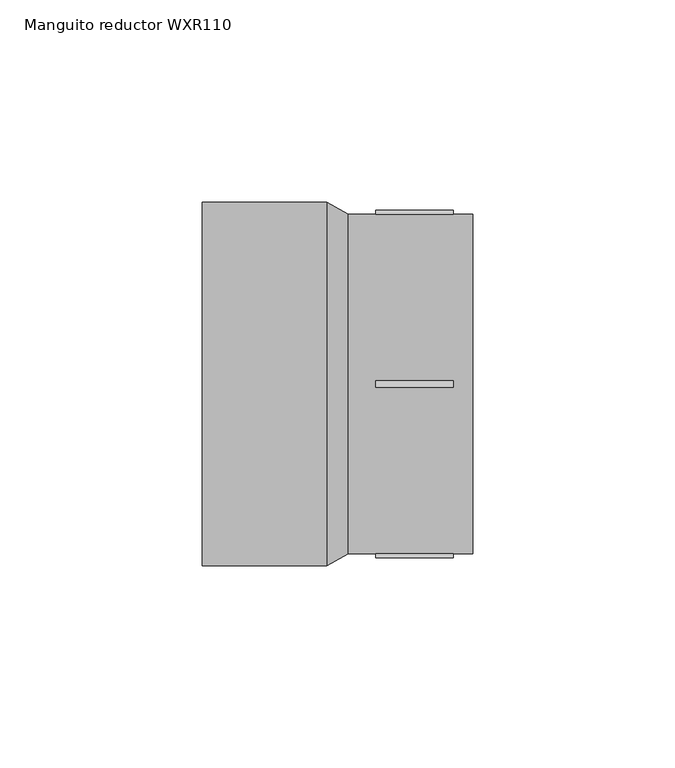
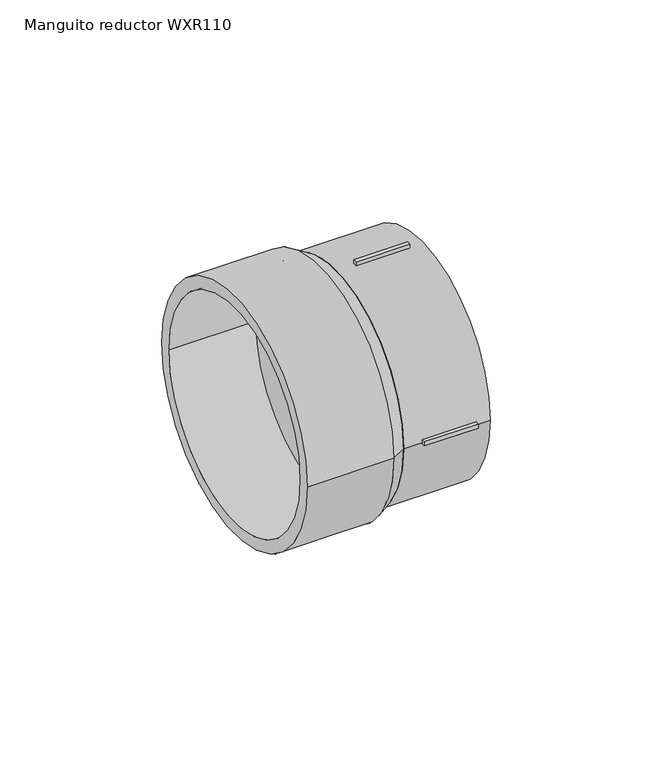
"""IFC4 building model written with IfcOpenShell, lengths in millimetres: pipe fitting geometry, EGB_VASEN_ PPR_Manguito reductor WXR110 : Manguito reductor WXR110."""

from ifc_helpers import new_model, si_unit, point, frame, origin, origin_2d, place, context, project, spatial, polyline, circle_curve, trimmed, segment, composite_curve, outline, extrude, source, transform, mapped, element, save
from ifc_brep_helpers import plane_surface, revolved_surface, advanced_brep


def manguito_reductor_wxr110_51adc2f6(model_context):
    return source(origin(), model_context, "Body", "SolidModel", [
        extrude(outline(polyline([(9.5, -0.75), (9.5, 0.75), (28.7, 0.75), (28.7, -0.75), (9.5, -0.75)])), frame((0.0, 0.0, 41.0), z_axis=(0.0, 0.0, 1.0), x_axis=(1.0, 0.0, 0.0)), (0.0, 0.0, 1.0), 2.0),
        extrude(outline(polyline([(9.5, -0.75), (9.5, 0.75), (28.7, 0.75), (28.7, -0.75), (9.5, -0.75)])), frame((0.0, 0.0, -43.0), z_axis=(0.0, 0.0, 1.0), x_axis=(1.0, 0.0, 0.0)), (0.0, 0.0, 1.0), 2.0),
        extrude(outline(polyline([(9.5, 41.0), (9.5, 43.0), (28.7, 43.0), (28.7, 41.0), (9.5, 41.0)])), frame((0.0, 0.0, -0.75), z_axis=(0.0, 0.0, 1.0), x_axis=(1.0, 0.0, 0.0)), (0.0, 0.0, 1.0), 1.5),
        extrude(outline(polyline([(9.5, -43.0), (9.5, -41.0), (28.7, -41.0), (28.7, -43.0), (9.5, -43.0)])), frame((0.0, 0.0, -0.75), z_axis=(0.0, 0.0, 1.0), x_axis=(1.0, 0.0, 0.0)), (0.0, 0.0, 1.0), 1.5),
        extrude(outline(composite_curve([segment(trimmed(circle_curve(origin_2d(), 42.0), [point((-42.0, 0.0))], [point((42.0, 0.0))], False, "CARTESIAN"), True, "CONTINUOUS"), segment(trimmed(circle_curve(origin_2d(), 42.0), [point((42.0, 0.0))], [point((-42.0, 0.0))], False, "CARTESIAN"), True, "CONTINUOUS")], self_intersect=False), holes=[composite_curve([segment(trimmed(circle_curve(origin_2d(), 31.5), [point((-31.5, 0.0))], [point((31.5, 0.0))], True, "CARTESIAN"), True, "CONTINUOUS"), segment(trimmed(circle_curve(origin_2d(), 31.5), [point((31.5, 0.0))], [point((-31.5, 0.0))], True, "CARTESIAN"), True, "CONTINUOUS")], self_intersect=False)]), frame((2.68, 0.0, 0.0), z_axis=(1.0, 0.0, 0.0), x_axis=(0.0, 1.0, 0.0)), (0.0, 0.0, 1.0), 30.82),
        extrude(outline(composite_curve([segment(trimmed(circle_curve(origin_2d(), 45.0), [point((-45.0, 0.0))], [point((45.0, 0.0))], False, "CARTESIAN"), True, "CONTINUOUS"), segment(trimmed(circle_curve(origin_2d(), 45.0), [point((45.0, 0.0))], [point((-45.0, 0.0))], False, "CARTESIAN"), True, "CONTINUOUS")], self_intersect=False), holes=[composite_curve([segment(trimmed(circle_curve(origin_2d(), 40.5), [point((-40.5, 0.0))], [point((40.5, 0.0))], True, "CARTESIAN"), True, "CONTINUOUS"), segment(trimmed(circle_curve(origin_2d(), 40.5), [point((40.5, 0.0))], [point((-40.5, 0.0))], True, "CARTESIAN"), True, "CONTINUOUS")], self_intersect=False)]), frame((-33.5, 0.0, 0.0), z_axis=(1.0, 0.0, 0.0), x_axis=(0.0, 1.0, 0.0)), (0.0, 0.0, 1.0), 30.82),
        advanced_brep(
        [(2.68, -42.0, 0.0), (2.68, 42.0, 0.0), (-2.68, -45.0, 0.0), (-2.68, 45.0, 0.0)],
        [
            (0, 1, circle_curve(frame((2.68, 0.0, 0.0), z_axis=(1.0, 0.0, 0.0), x_axis=(0.0, -1.0, 0.0)), 42.0)),
            (1, 0, circle_curve(frame((2.68, 0.0, 0.0), z_axis=(1.0, 0.0, 0.0), x_axis=(0.0, 1.0, 0.0)), 42.0)),
            (2, 3, circle_curve(frame((-2.68, 0.0, 0.0), z_axis=(-1.0, 0.0, 0.0), x_axis=(0.0, 1.0, 0.0)), 45.0)),
            (3, 2, circle_curve(frame((-2.68, 0.0, 0.0), z_axis=(-1.0, 0.0, 0.0), x_axis=(0.0, -1.0, 0.0)), 45.0)),
            (3, 1),
            (0, 2),
        ],
        [
            plane_surface(frame((2.68, 0.0, 0.0), z_axis=(1.0, 0.0, 0.0), x_axis=(0.0, 0.0, -1.0))),
            plane_surface(frame((-2.68, 0.0, 0.0), z_axis=(-1.0, 0.0, 0.0), x_axis=(0.0, 0.0, -1.0))),
            revolved_surface(polyline([(2.680000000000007, -41.99999999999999, 0.0), (-2.680000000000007, -45.0, 0.0)]), (77.72, 0.0, 0.0), (-1.0, 0.0, 0.0)),
            revolved_surface(polyline([(2.680000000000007, 41.99999999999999, 0.0), (-2.680000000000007, 45.0, 0.0)]), (77.72, 0.0, 0.0), (-1.0, 0.0, 0.0)),
        ],
        [
            (0, [[1, 2]]),
            (1, [[3, 4]]),
            (2, [[-4, 5, -1, 6]]),
            (3, [[-3, -6, -2, -5]]),
        ],
    ),
    ])


if __name__ == "__main__":
    model = new_model("IFC4")
    model_context = context("Model", 3, world=origin())
    ifc_project = project(units=[si_unit("LENGTHUNIT", "METRE", prefix="MILLI")], contexts=[model_context])
    site = spatial("IfcSite", under=ifc_project)
    building = spatial("IfcBuilding", under=site)
    placement = place(None, origin())
    manguito_reductor_wxr110_shape = manguito_reductor_wxr110_51adc2f6(model_context)
    element("IfcPipeFitting", 1, ObjectType="EGB_VASEN_ PPR_Manguito reductor WXR110 : Manguito reductor WXR110", at=placement, inside=building, context=model_context, shape_type="MappedRepresentation", body=[
        mapped(manguito_reductor_wxr110_shape, transform((0.0, 0.0, 0.0), x_axis=(1.0, 0.0, 0.0), y_axis=(0.0, 1.0, 0.0), z_axis=(0.0, 0.0, 1.0))),
    ])
    save(model, "model.ifc")
